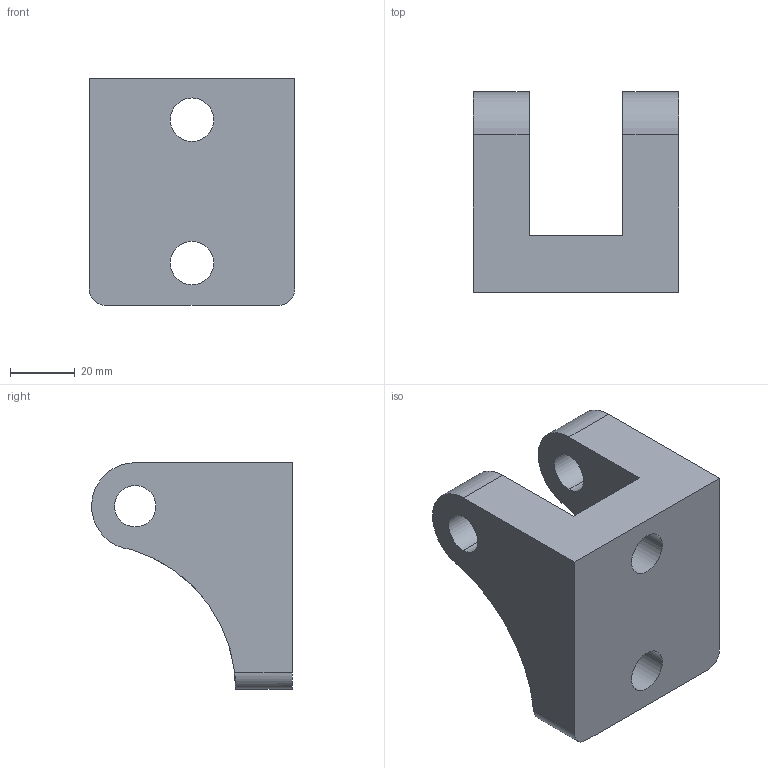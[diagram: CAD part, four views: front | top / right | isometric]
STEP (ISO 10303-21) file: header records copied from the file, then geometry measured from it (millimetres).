
FILE_DESCRIPTION (( 'STEP AP214' ), '1' );
FILE_NAME ('MMP LA5 LA10 Aluminum Bracket.STEP', '2020-09-04T16:02:10', ( '' ), ( '' ), 'SwSTEP 2.0', 'SolidWorks 2017', '' );
FILE_SCHEMA (( 'AUTOMOTIVE_DESIGN' ));
Length unit declared in the file: inch
Products named in the file (1): MMP LA5 LA10 Aluminum Bracket
Bounding box: 63.5 x 62.04 x 70.1 mm (x, y, z)
Volume: 119763.6 mm3; surface area: 23290.5 mm2
Topology: 1 solids, 1 shells, 21 faces, 57 edges, 38 vertices
Faces by surface type: cylinder 13, plane 8
Entity records: 767 total; most frequent: CARTESIAN_POINT 155, DIRECTION 125, ORIENTED_EDGE 114, EDGE_CURVE 57, AXIS2_PLACEMENT_3D 48, VERTEX_POINT 38, LINE 29, VECTOR 29
